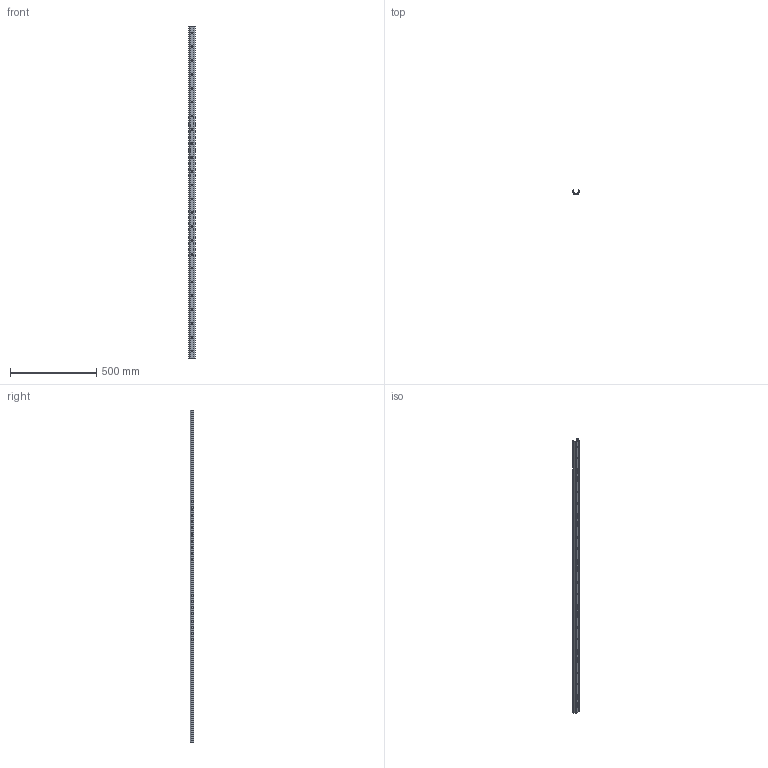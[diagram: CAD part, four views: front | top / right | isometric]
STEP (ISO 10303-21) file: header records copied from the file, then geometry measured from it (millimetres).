
FILE_DESCRIPTION(('STEP AP214'),'1');
FILE_NAME('rail_tex40-1920.stp','2019-03-08T08:33:31',('TraceParts'),('TraceParts S.A.'),'Spatial InterOp 3D',' ',' ');
FILE_SCHEMA(('automotive_design'));
Length unit declared in the file: millimetre
Products named in the file (1): rail_tex40-1920
Bounding box: 39.53 x 21 x 1920 mm (x, y, z)
Volume: 375399.9 mm3; surface area: 264531.2 mm2
Topology: 1 solids, 1 shells, 416 faces, 1080 edges, 720 vertices
Faces by surface type: plane 290, bspline 66, cylinder 60
Entity records: 26153 total; most frequent: CARTESIAN_POINT 12819, ORIENTED_EDGE 2160, DIRECTION 1770, EDGE_CURVE 1080, LINE 828, VECTOR 828, VERTEX_POINT 720, EDGE_LOOP 518
